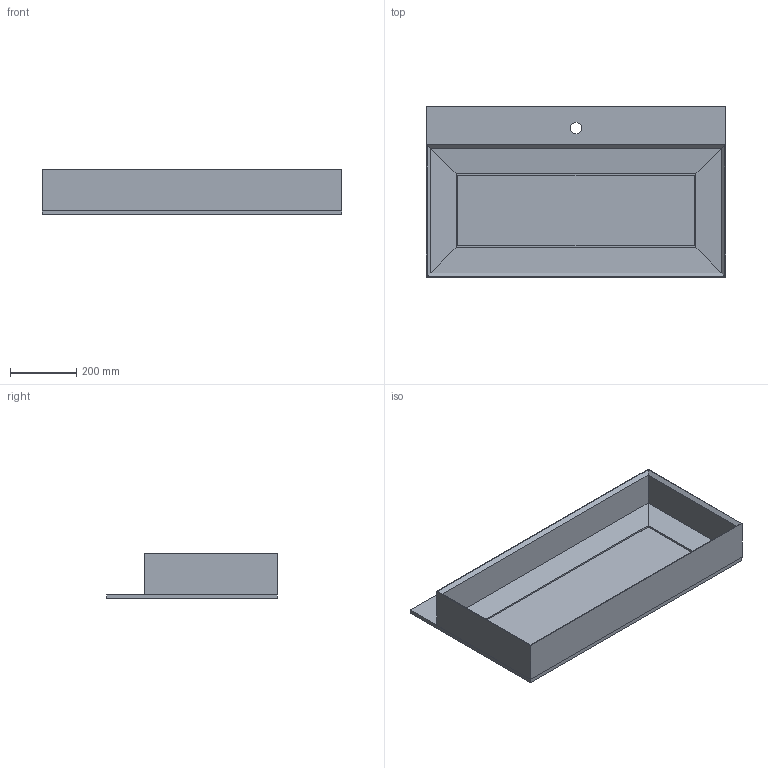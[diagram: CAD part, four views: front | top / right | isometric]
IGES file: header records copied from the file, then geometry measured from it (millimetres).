
Start section: Data from Parasolid IGES Translator 19.0.9, Copyright(c) 2006 Siemens PL M Software. All Rights Reserved.
Global section: file name: noorth-top-H 1,2 D 51,3 W 90_4651.igs; native system: By Siemens PLM Incorporated; preprocessor: XPlus GENERIC/IGES 19.0.9; author: Noname; organization: Noname; date: 20200603.115338; units: metre
Bounding box: 900 x 513 x 137 mm (x, y, z)
Volume: 11682645.8 mm3; surface area: 2276035.6 mm2
Topology: 2 solids, 2 shells, 43 faces, 107 edges, 66 vertices
Faces by surface type: plane 42, cylinder 1
Full cylindrical faces by diameter (mm): 34.9 x1
